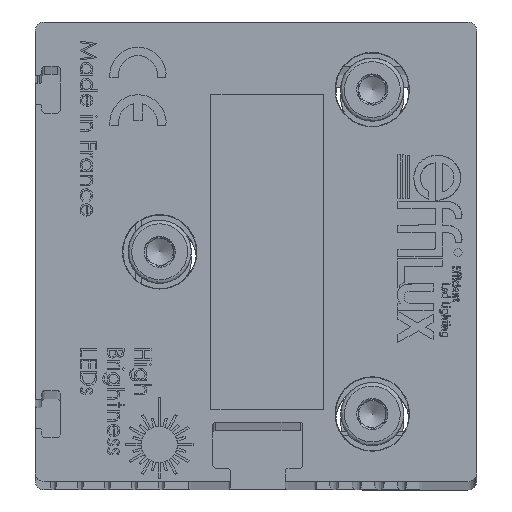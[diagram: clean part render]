
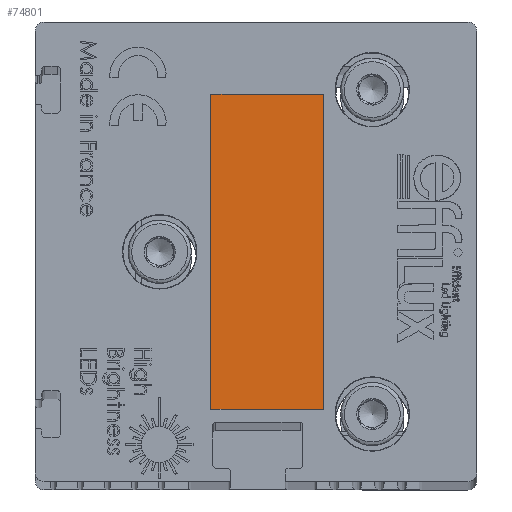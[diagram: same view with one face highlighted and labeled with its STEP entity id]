
A CAD part, top view. The second image highlights one B-rep face of the part: STEP entity #74801.
In plain terms, the highlighted planar face has unit normal (0, 0, 1).
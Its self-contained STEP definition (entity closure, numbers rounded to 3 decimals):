
#11 = CARTESIAN_POINT ( 'NONE',  ( 7.5, 17.5, 534.9 ) ) ;
#3141 = ORIENTED_EDGE ( 'NONE', *, *, #14156, .T. ) ;
#3556 = VERTEX_POINT ( 'NONE', #66240 ) ;
#11748 = VECTOR ( 'NONE', #61261, 1000. ) ;
#11762 = VECTOR ( 'NONE', #103158, 1000. ) ;
#13158 = LINE ( 'NONE', #11, #90209 ) ;
#14156 = EDGE_CURVE ( 'NONE', #3556, #60320, #13158, .T. ) ;
#15638 = EDGE_CURVE ( 'NONE', #17220, #3556, #53985, .T. ) ;
#17220 = VERTEX_POINT ( 'NONE', #82803 ) ;
#18869 = ORIENTED_EDGE ( 'NONE', *, *, #82953, .T. ) ;
#23864 = VECTOR ( 'NONE', #43278, 1000. ) ;
#43278 = DIRECTION ( 'NONE',  ( 1., 0., 0. ) ) ;
#48598 = LINE ( 'NONE', #99299, #23864 ) ;
#49159 = AXIS2_PLACEMENT_3D ( 'NONE', #106357, #114219, #114617 ) ;
#50711 = CARTESIAN_POINT ( 'NONE',  ( -5., 17.5, 534.9 ) ) ;
#53865 = ORIENTED_EDGE ( 'NONE', *, *, #15638, .T. ) ;
#53985 = LINE ( 'NONE', #73515, #11762 ) ;
#60320 = VERTEX_POINT ( 'NONE', #72125 ) ;
#61261 = DIRECTION ( 'NONE',  ( 0., -1., 0. ) ) ;
#64125 = LINE ( 'NONE', #50711, #11748 ) ;
#64821 = EDGE_CURVE ( 'NONE', #60320, #110866, #64125, .T. ) ;
#65824 = DIRECTION ( 'NONE',  ( -1., 0., 0. ) ) ;
#66240 = CARTESIAN_POINT ( 'NONE',  ( 7.5, 17.5, 534.9 ) ) ;
#70830 = EDGE_LOOP ( 'NONE', ( #3141, #86965, #18869, #53865 ) ) ;
#72125 = CARTESIAN_POINT ( 'NONE',  ( -5., 17.5, 534.9 ) ) ;
#73148 = CARTESIAN_POINT ( 'NONE',  ( -5., -17.5, 534.9 ) ) ;
#73515 = CARTESIAN_POINT ( 'NONE',  ( 7.5, 17.5, 534.9 ) ) ;
#74801 = ADVANCED_FACE ( 'NONE', ( #78257 ), #86453, .T. ) ;
#78257 = FACE_OUTER_BOUND ( 'NONE', #70830, .T. ) ;
#82803 = CARTESIAN_POINT ( 'NONE',  ( 7.5, -17.5, 534.9 ) ) ;
#82953 = EDGE_CURVE ( 'NONE', #110866, #17220, #48598, .T. ) ;
#86453 = PLANE ( 'NONE',  #49159 ) ;
#86965 = ORIENTED_EDGE ( 'NONE', *, *, #64821, .T. ) ;
#90209 = VECTOR ( 'NONE', #65824, 1000. ) ;
#99299 = CARTESIAN_POINT ( 'NONE',  ( 7.5, -17.5, 534.9 ) ) ;
#103158 = DIRECTION ( 'NONE',  ( 0., 1., 0. ) ) ;
#106357 = CARTESIAN_POINT ( 'NONE',  ( -5., 17.5, 534.9 ) ) ;
#110866 = VERTEX_POINT ( 'NONE', #73148 ) ;
#114219 = DIRECTION ( 'NONE',  ( 0., 0., 1. ) ) ;
#114617 = DIRECTION ( 'NONE',  ( 1., 0., 0. ) ) ;
